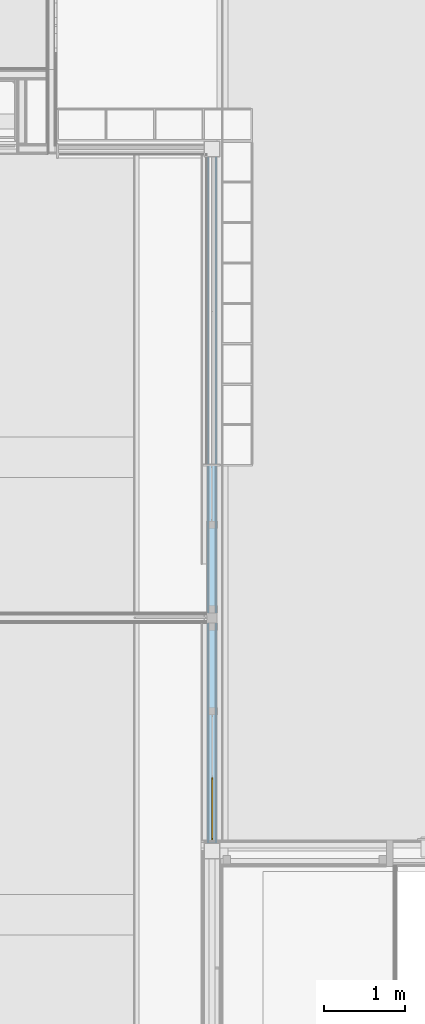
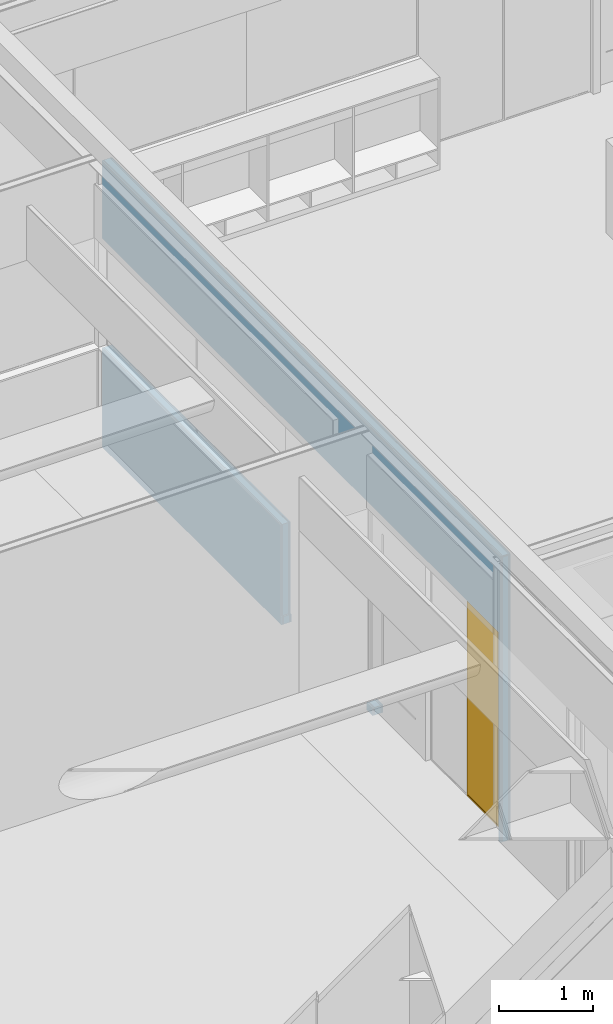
# One storey, part 59 of 137: 1 door, 7 openings, 1 element without a shape of its own, plus 5 elements that do not belong to this part.
"""IFC2X3 building model written with IfcOpenShell, lengths in millimetres."""

from ifc_helpers import new_model, entity, si_unit, converted_unit, derived_unit, money_unit, direction, frame, origin_with_axes, place, context, subcontext, project, spatial, open_shell, faceted_brep, surface_model, material, type_object, element, fill, aggregate, save


model = new_model("IFC2X3")

# Units and contexts
model_context = context("Model", 3, precision=0.01, world=origin_with_axes(), true_north=direction((0.0, 1.0)))
body_context = subcontext(model_context, "Body", "Model", "MODEL_VIEW")
ifc_project = project(units=[si_unit("LENGTHUNIT", "METRE", prefix="MILLI"), si_unit("AREAUNIT", "SQUARE_METRE"), si_unit("VOLUMEUNIT", "CUBIC_METRE"), converted_unit("PLANEANGLEUNIT", "DEGREE", entity("IfcPlaneAngleMeasure", 0.0174532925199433), si_unit("PLANEANGLEUNIT", "RADIAN"), dimensions=[0, 0, 0, 0, 0, 0, 0]), money_unit("EUR"), converted_unit("TIMEUNIT", "Year", entity("IfcTimeMeasure", 31556926.0), si_unit("TIMEUNIT", "SECOND"), dimensions=[0, 0, 1, 0, 0, 0, 0]), si_unit("MASSUNIT", "GRAM", prefix="KILO"), si_unit("THERMODYNAMICTEMPERATUREUNIT", "DEGREE_CELSIUS"), si_unit("LUMINOUSINTENSITYUNIT", "LUMEN"), si_unit("ENERGYUNIT", "JOULE", prefix="MEGA"), derived_unit("THERMALCONDUCTANCEUNIT", [(si_unit("POWERUNIT", "WATT"), 1), (si_unit("LENGTHUNIT", "METRE"), -1), (si_unit("THERMODYNAMICTEMPERATUREUNIT", "KELVIN"), -1)]), derived_unit("SPECIFICHEATCAPACITYUNIT", [(si_unit("ENERGYUNIT", "JOULE"), 1), (si_unit("MASSUNIT", "GRAM", prefix="KILO"), -1), (si_unit("THERMODYNAMICTEMPERATUREUNIT", "KELVIN"), -1)]), derived_unit("MASSDENSITYUNIT", [(si_unit("MASSUNIT", "GRAM", prefix="KILO"), 1), (si_unit("VOLUMEUNIT", "CUBIC_METRE"), -1)])], contexts=[model_context])

# Site, building, storey
site_placement = place(None, origin_with_axes())
site = spatial("IfcSite", under=ifc_project, at=site_placement, Name="Site", CompositionType="ELEMENT")
building_placement = place(site_placement, origin_with_axes())
building = spatial("IfcBuilding", under=site, at=building_placement, Name="Naam gebouw", CompositionType="ELEMENT")
storey_placement = place(building_placement, frame((0.0, 0.0, 3960.0), z_axis=(0.0, 0.0, 1.0), x_axis=(1.0, 0.0, 0.0)))
storey = spatial("IfcBuildingStorey", under=building, at=storey_placement, Name="1e verdieping", CompositionType="ELEMENT", Elevation=3960.0)

# Door
door_style = type_object("IfcDoorStyle", Name="R1 26", ConstructionType="NOTDEFINED", OperationType="SINGLE_SWING_RIGHT", ParameterTakesPrecedence=False, Sizeable=False)
proxy_placement = place(storey_placement, frame((8850.000000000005, 19449.9998112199, -100.0000000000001), z_axis=(0.0, 0.0, 1.0), x_axis=(0.0, -1.0, 0.0)))
opening_1_placement = place(proxy_placement, frame((8119.999775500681, 0.0, 100.0000000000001), z_axis=(0.0, 0.0, 1.0), x_axis=(1.0, 0.0, 0.0)))
door_placement = place(opening_1_placement, frame((-384.999925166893, 0.0, 0.0), z_axis=(0.0, 0.0, 1.0), x_axis=(1.0, 0.0, 0.0)))
door = element("IfcDoor", 1, at=door_placement, inside=storey, type_object=door_style, Name="_B.08", ObjectType="DOOR", OverallHeight=2600.0, OverallWidth=770.0, context=body_context, shape_type="SurfaceModel", body=[
    faceted_brep([(749.9998503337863, -7.500000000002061, 2580.0), (769.999850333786, -7.500000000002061, 2580.0), (769.999850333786, 12.49999999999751, 2580.0), (749.9998503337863, 12.49999999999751, 2580.0), (749.9998503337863, -7.500000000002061, 20.00000000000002), (769.999850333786, -7.500000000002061, 20.00000000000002), (769.999850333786, 12.49999999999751, 20.00000000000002), (749.9998503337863, 12.49999999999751, 20.00000000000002)], [[[0, 1, 2, 3]], [[0, 4, 5, 1]], [[1, 5, 6, 2]], [[3, 2, 6, 7]], [[4, 0, 3, 7]], [[5, 4, 7, 6]]]),
    faceted_brep([(19.99999999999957, -7.500000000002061, 20.00000000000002), (0.0, -7.500000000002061, 20.00000000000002), (0.0, 12.49999999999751, 20.00000000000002), (19.99999999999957, 12.49999999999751, 20.00000000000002), (19.99999999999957, -7.500000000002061, 2580.0), (0.0, -7.500000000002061, 2580.0), (0.0, 12.49999999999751, 2580.0), (19.99999999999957, 12.49999999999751, 2580.0)], [[[0, 1, 2, 3]], [[0, 4, 5, 1]], [[1, 5, 6, 2]], [[3, 2, 6, 7]], [[4, 0, 3, 7]], [[5, 4, 7, 6]]]),
    faceted_brep([(749.9998503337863, -7.500000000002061, 20.00000000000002), (769.999850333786, -7.500000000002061, 20.00000000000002), (769.999850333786, 12.49999999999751, 20.00000000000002), (749.9998503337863, 12.49999999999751, 20.00000000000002), (19.99999999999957, -7.500000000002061, 20.00000000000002), (0.0, -7.500000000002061, 20.00000000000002), (0.0, -7.500000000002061, 0.0), (769.999850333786, -7.500000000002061, 0.0), (769.999850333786, 12.49999999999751, 0.0), (0.0, 12.49999999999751, 0.0), (0.0, 12.49999999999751, 20.00000000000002), (19.99999999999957, 12.49999999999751, 20.00000000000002)], [[[0, 1, 2, 3]], [[0, 4, 5, 6, 7, 1]], [[1, 7, 8, 2]], [[3, 2, 8, 9, 10, 11]], [[4, 0, 3, 11]], [[5, 4, 11, 10]], [[6, 5, 10, 9]], [[7, 6, 9, 8]]]),
    faceted_brep([(19.99999999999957, -7.500000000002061, 2580.0), (0.0, -7.500000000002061, 2580.0), (0.0, 12.49999999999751, 2580.0), (19.99999999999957, 12.49999999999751, 2580.0), (749.9998503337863, -7.500000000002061, 2580.0), (769.999850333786, -7.500000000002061, 2580.0), (769.999850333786, -7.500000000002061, 2600.0), (0.0, -7.500000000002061, 2600.0), (0.0, 12.49999999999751, 2600.0), (769.999850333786, 12.49999999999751, 2600.0), (769.999850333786, 12.49999999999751, 2580.0), (749.9998503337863, 12.49999999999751, 2580.0)], [[[0, 1, 2, 3]], [[0, 4, 5, 6, 7, 1]], [[1, 7, 8, 2]], [[3, 2, 8, 9, 10, 11]], [[4, 0, 3, 11]], [[5, 4, 11, 10]], [[6, 5, 10, 9]], [[7, 6, 9, 8]]]),
    surface_model("IfcShellBasedSurfaceModel", [(749.9998503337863, -2.500000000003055, 20.00000000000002), (749.9998503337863, -2.500000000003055, 2580.0), (19.99999999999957, -2.500000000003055, 2580.0), (19.99999999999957, -2.500000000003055, 20.00000000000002)], [open_shell([[[0, 1, 2, 3]]])]),
    surface_model("IfcShellBasedSurfaceModel", [(749.9998503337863, 7.499999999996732, 20.00000000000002), (19.99999999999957, 7.499999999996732, 20.00000000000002), (19.99999999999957, 7.499999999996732, 2580.0), (749.9998503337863, 7.499999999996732, 2580.0)], [open_shell([[[0, 1, 2, 3]]])]),
])

# Proxy, opening
building_element_proxy_type = type_object("IfcBuildingElementProxyType", Name="22 Metal stud 125 gips 125", PredefinedType="NOTDEFINED")
proxy = element("IfcBuildingElementProxy", 2, at=proxy_placement, inside=storey, type_object=building_element_proxy_type, Name="_Wand-x")
opening_1 = element("IfcOpeningElement", 3, at=opening_1_placement, cuts=proxy, Name="_B.08", context=body_context, shape_type="Brep", body=[
    faceted_brep([(-384.999925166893, 12.49999999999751, -100.0000000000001), (-384.999925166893, 12.49999999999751, 2600.0), (-384.999925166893, 63.49999999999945, 2600.0), (-384.999925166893, 63.49999999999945, -100.0000000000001), (-384.999925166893, -63.49999999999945, -100.0000000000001), (-384.999925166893, -63.49999999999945, 2600.0), (384.999925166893, 12.49999999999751, 2600.0), (384.999925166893, 63.49999999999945, 2600.0), (384.999925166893, -63.49999999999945, 2600.0), (384.999925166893, 63.49999999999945, -100.0000000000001), (384.999925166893, 12.49999999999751, -100.0000000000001), (384.999925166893, -63.49999999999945, -100.0000000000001)], [[[0, 1, 2, 3]], [[1, 0, 4, 5]], [[6, 7, 2, 1, 5, 8]], [[7, 9, 3, 2]], [[0, 3, 9, 10, 11, 4]], [[5, 4, 11, 8]], [[6, 10, 9, 7]], [[10, 6, 8, 11]]]),
])

fill(opening_1, door)

# Opening
opening_2_placement = place(proxy_placement, frame((2950.000000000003, 0.0, 1298.0), z_axis=(0.0, 0.0, 1.0), x_axis=(1.0, 0.0, 0.0)))
element("IfcOpeningElement", 4, at=opening_2_placement, cuts=proxy, Name="_C.02", context=body_context, shape_type="Brep", body=[
    faceted_brep([(-949.9999999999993, 12.49999999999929, 0.0), (-949.9999999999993, 12.49999999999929, 1400.0), (-949.9999999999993, 63.49999999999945, 1400.0), (-949.9999999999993, 63.49999999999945, 0.0), (-949.9999999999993, -63.49999999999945, 0.0), (-949.9999999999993, -63.49999999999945, 1400.0), (950.000000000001, 12.49999999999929, 1400.0), (950.000000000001, 63.49999999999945, 1400.0), (950.000000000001, -63.49999999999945, 1400.0), (950.000000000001, 63.49999999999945, 0.0), (950.000000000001, 12.49999999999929, 0.0), (950.000000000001, -63.49999999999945, 0.0)], [[[0, 1, 2, 3]], [[1, 0, 4, 5]], [[6, 7, 2, 1, 5, 8]], [[7, 9, 3, 2]], [[0, 3, 9, 10, 11, 4]], [[5, 4, 11, 8]], [[6, 10, 9, 7]], [[10, 6, 8, 11]]]),
])

opening_3_placement = place(proxy_placement, frame((4240.000000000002, 0.0, 100.0000000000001), z_axis=(0.0, 0.0, 1.0), x_axis=(1.0, 0.0, 0.0)))
element("IfcOpeningElement", 5, at=opening_3_placement, cuts=proxy, Name="_B.07", context=body_context, shape_type="Brep", body=[
    faceted_brep([(339.9999999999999, -12.49999999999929, -100.0000000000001), (339.9999999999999, -12.49999999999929, 2600.0), (339.9999999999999, -63.49999999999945, 2600.0), (339.9999999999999, -63.49999999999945, -100.0000000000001), (339.9999999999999, 63.49999999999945, -100.0000000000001), (339.9999999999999, 63.49999999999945, 2600.0), (-339.9999999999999, -12.49999999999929, 2600.0), (-339.9999999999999, -63.49999999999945, 2600.0), (-339.9999999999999, 63.49999999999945, 2600.0), (-339.9999999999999, -63.49999999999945, -100.0000000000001), (-339.9999999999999, -12.49999999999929, -100.0000000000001), (-339.9999999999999, 63.49999999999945, -100.0000000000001)], [[[0, 1, 2, 3]], [[1, 0, 4, 5]], [[6, 7, 2, 1, 5, 8]], [[7, 9, 3, 2]], [[0, 3, 9, 10, 11, 4]], [[5, 4, 11, 8]], [[6, 10, 9, 7]], [[10, 6, 8, 11]]]),
])

opening_4_placement = place(proxy_placement, frame((5145.000000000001, 0.0, 100.0000000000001), z_axis=(0.0, 0.0, 1.0), x_axis=(1.0, 0.0, 0.0)))
element("IfcOpeningElement", 6, at=opening_4_placement, cuts=proxy, Name="_02.01", context=body_context, shape_type="Brep", body=[
    faceted_brep([(564.9999999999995, 63.49999999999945, 2600.0), (564.9999999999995, 63.49999999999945, -100.0000000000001), (-564.9999999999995, 63.49999999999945, -100.0000000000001), (-564.9999999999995, 63.49999999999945, 2600.0), (564.9999999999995, -63.49999999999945, 2600.0), (564.9999999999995, -63.49999999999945, -100.0000000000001), (-564.9999999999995, -63.49999999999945, -100.0000000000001), (-564.9999999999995, -63.49999999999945, 2600.0)], [[[0, 1, 2, 3]], [[4, 5, 1, 0]], [[5, 6, 2, 1]], [[6, 7, 3, 2]], [[7, 4, 0, 3]], [[6, 5, 4, 7]]]),
])

opening_5_placement = place(proxy_placement, frame((7349.999925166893, 0.0, 100.0000000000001), z_axis=(0.0, 0.0, 1.0), x_axis=(1.0, 0.0, 0.0)))
element("IfcOpeningElement", 7, at=opening_5_placement, cuts=proxy, Name="_B.08", context=body_context, shape_type="Brep", body=[
    faceted_brep([(-384.999925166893, 12.49999999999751, -100.0000000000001), (-384.999925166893, 12.49999999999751, 2600.0), (-384.999925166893, 63.49999999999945, 2600.0), (-384.999925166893, 63.49999999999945, -100.0000000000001), (-384.999925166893, -63.49999999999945, -100.0000000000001), (-384.999925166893, -63.49999999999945, 2600.0), (384.999925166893, 12.49999999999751, 2600.0), (384.999925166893, 63.49999999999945, 2600.0), (384.999925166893, -63.49999999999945, 2600.0), (384.999925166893, 63.49999999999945, -100.0000000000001), (384.999925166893, 12.49999999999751, -100.0000000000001), (384.999925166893, -63.49999999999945, -100.0000000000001)], [[[0, 1, 2, 3]], [[1, 0, 4, 5]], [[6, 7, 2, 1, 5, 8]], [[7, 9, 3, 2]], [[0, 3, 9, 10, 11, 4]], [[5, 4, 11, 8]], [[6, 10, 9, 7]], [[10, 6, 8, 11]]]),
])

opening_6_placement = place(proxy_placement, frame((6400.0, 0.0, 100.0000000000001), z_axis=(0.0, 0.0, 1.0), x_axis=(1.0, 0.0, 0.0)))
element("IfcOpeningElement", 8, at=opening_6_placement, cuts=proxy, Name="_01.01", context=body_context, shape_type="Brep", body=[
    faceted_brep([(-564.9999999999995, -63.49999999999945, 2600.0), (-564.9999999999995, -63.49999999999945, -100.0000000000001), (564.9999999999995, -63.49999999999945, -100.0000000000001), (564.9999999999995, -63.49999999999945, 2600.0), (-564.9999999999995, 63.49999999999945, 2600.0), (-564.9999999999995, 63.49999999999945, -100.0000000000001), (564.9999999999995, 63.49999999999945, -100.0000000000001), (564.9999999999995, 63.49999999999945, 2600.0)], [[[0, 1, 2, 3]], [[4, 5, 1, 0]], [[5, 6, 2, 1]], [[6, 7, 3, 2]], [[7, 4, 0, 3]], [[6, 5, 4, 7]]]),
])

opening_7_placement = place(proxy_placement, frame((1050.000000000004, 0.0, 1298.0), z_axis=(0.0, 0.0, 1.0), x_axis=(1.0, 0.0, 0.0)))
element("IfcOpeningElement", 9, at=opening_7_placement, cuts=proxy, Name="_C.02", context=body_context, shape_type="Brep", body=[
    faceted_brep([(-949.9999999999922, 12.49999999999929, 0.0), (-949.9999999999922, 12.49999999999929, 1400.0), (-949.9999999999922, 63.49999999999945, 1400.0), (-949.9999999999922, 63.49999999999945, 0.0), (-949.9999999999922, -63.49999999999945, 0.0), (-949.9999999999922, -63.49999999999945, 1400.0), (949.9999999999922, 12.49999999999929, 1400.0), (949.9999999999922, 63.49999999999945, 1400.0), (949.9999999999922, -63.49999999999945, 1400.0), (949.9999999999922, 63.49999999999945, 0.0), (949.9999999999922, 12.49999999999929, 0.0), (949.9999999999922, -63.49999999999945, 0.0)], [[[0, 1, 2, 3]], [[1, 0, 4, 5]], [[6, 7, 2, 1, 5, 8]], [[7, 9, 3, 2]], [[0, 3, 9, 10, 11, 4]], [[5, 4, 11, 8]], [[6, 10, 9, 7]], [[10, 6, 8, 11]]]),
])

# Building element part
ifc_material_1 = material(Name="Gipsplaat")
building_element_part_1_placement = place(proxy_placement, origin_with_axes())
building_element_part_1 = element("IfcBuildingElementPart", 10, at=building_element_part_1_placement, material=ifc_material_1, Name="Gipsplaat", context=body_context, shape_type="Brep", body=[
    faceted_brep([(100.0000000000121, 37.49999999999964, 1280.000000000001), (100.0000000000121, 50.00000000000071, 1280.000000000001), (100.0000000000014, 50.00000000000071, 0.0), (100.0000000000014, 37.49999999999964, 0.0), (3880.004312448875, 50.00000000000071, 1280.000000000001), (3880.004288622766, 37.49999999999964, 1280.000000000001), (3880.004312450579, 50.00000000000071, 100.0000000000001), (3900.004312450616, 49.99999999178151, 100.0000000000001), (3900.000000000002, 50.00000000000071, 0.0), (3900.000000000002, 37.49999999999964, 0.0), (3900.004288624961, 37.49999999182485, 100.0000000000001), (3880.004288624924, 37.49999999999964, 100.0000000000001)], [[[0, 1, 2, 3]], [[4, 1, 0, 5]], [[1, 4, 6, 7, 8, 2]], [[9, 3, 2, 8]], [[5, 0, 3, 9, 10, 11]], [[4, 5, 11, 6]], [[6, 11, 10, 7]], [[10, 9, 8, 7]]]),
    faceted_brep([(8539.999700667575, 49.99999999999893, 0.0), (8504.999700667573, 49.99999999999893, 0.0), (8504.999700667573, 49.99999999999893, 2700.0), (5835.000000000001, 49.99999999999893, 2700.0), (5710.000000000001, 49.99999999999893, 2700.0), (3900.000000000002, 50.00000000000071, 2700.0), (3900.000000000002, 50.00000000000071, 2698.0), (100.0000000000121, 50.00000000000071, 2698.0), (100.0000000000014, 50.00000000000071, 3683.000002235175), (8539.999700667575, 49.99999999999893, 3683.000002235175), (8539.999700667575, 37.49999999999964, 0.0), (8504.999700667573, 37.49999999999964, 0.0), (8504.999700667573, 37.49999999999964, 2700.0), (5835.000000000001, 37.49999999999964, 2700.0), (5710.000000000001, 37.49999999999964, 2700.0), (3900.000000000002, 37.49999999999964, 2700.0), (3900.000000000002, 37.49999999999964, 2698.0), (100.0000000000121, 37.49999999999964, 2698.0), (100.0000000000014, 37.49999999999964, 3683.000002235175), (8539.999700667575, 37.49999999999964, 3683.000002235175)], [[[0, 1, 2, 3, 4, 5, 6, 7, 8, 9]], [[1, 0, 10, 11]], [[1, 11, 12, 2]], [[3, 2, 12, 13]], [[4, 3, 13, 14]], [[14, 15, 5, 4]], [[16, 6, 5, 15]], [[7, 6, 16, 17]], [[7, 17, 18, 8]], [[9, 8, 18, 19]], [[10, 0, 9, 19]], [[17, 16, 15, 14, 13, 12, 11, 10, 19, 18]]]),
    faceted_brep([(5710.000000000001, 37.49999999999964, 100.0000000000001), (5710.000000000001, 49.99999999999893, 100.0000000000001), (5710.000000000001, 49.99999999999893, 0.0), (5710.000000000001, 37.49999999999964, 0.0), (5835.000000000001, 49.99999999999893, 100.0000000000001), (5835.000000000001, 37.49999999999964, 100.0000000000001), (5835.000000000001, 49.99999999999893, 0.0), (5835.000000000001, 37.49999999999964, 0.0)], [[[0, 1, 2, 3]], [[4, 1, 0, 5]], [[1, 4, 6, 2]], [[2, 6, 7, 3]], [[5, 0, 3, 7]], [[4, 5, 7, 6]]]),
    faceted_brep([(100.0000000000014, 50.00000000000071, 3695.000002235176), (100.0000000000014, 50.00000000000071, 3699.999999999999), (8539.999700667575, 49.99999999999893, 3699.999999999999), (8539.999700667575, 49.99999999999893, 3695.000002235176), (100.0000000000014, 37.49999999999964, 3699.999999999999), (100.0000000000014, 37.49999999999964, 3695.000002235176), (8539.999700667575, 37.49999999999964, 3699.999999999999), (8539.999700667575, 37.49999999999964, 3695.000002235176)], [[[0, 1, 2, 3]], [[4, 1, 0, 5]], [[1, 4, 6, 2]], [[3, 2, 6, 7]], [[5, 0, 3, 7]], [[4, 5, 7, 6]]]),
])

building_element_part_2_placement = place(proxy_placement, origin_with_axes())
building_element_part_2 = element("IfcBuildingElementPart", 11, at=building_element_part_2_placement, material=ifc_material_1, Name="Gipsplaat", context=body_context, shape_type="Brep", body=[
    faceted_brep([(100.0000000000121, -50.00000000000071, 1280.000000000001), (100.0000000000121, -37.49999999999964, 1280.000000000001), (100.0000000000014, -37.49999999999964, 0.0), (100.0000000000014, -50.00000000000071, 0.0), (3880.004145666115, -37.49999999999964, 1280.000000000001), (3880.004121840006, -49.99999999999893, 1280.000000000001), (3880.004145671, -37.49999999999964, 100.0000000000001), (3900.004145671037, -37.50000000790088, 100.0000000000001), (3900.000000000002, -37.49999999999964, 0.0), (3900.000000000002, -50.00000000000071, 0.0), (3900.004121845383, -50.00000000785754, 100.0000000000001), (3880.004121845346, -49.99999999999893, 100.0000000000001)], [[[0, 1, 2, 3]], [[4, 1, 0, 5]], [[1, 4, 6, 7, 8, 2]], [[9, 3, 2, 8]], [[5, 0, 3, 9, 10, 11]], [[4, 5, 11, 6]], [[6, 11, 10, 7]], [[10, 9, 8, 7]]]),
    faceted_brep([(8539.999700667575, -37.50000000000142, 0.0), (8504.999700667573, -37.50000000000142, 0.0), (8504.999700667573, -37.50000000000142, 2700.0), (5835.000000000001, -37.50000000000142, 2700.0), (5710.000000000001, -37.50000000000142, 2700.0), (3900.000000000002, -37.49999999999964, 2700.0), (3900.000000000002, -37.49999999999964, 2698.0), (100.0000000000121, -37.49999999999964, 2698.0), (100.0000000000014, -37.49999999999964, 3683.000002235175), (8539.999700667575, -37.50000000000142, 3683.000002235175), (8539.999700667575, -50.00000000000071, 0.0), (8504.999700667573, -50.00000000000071, 0.0), (8504.999700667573, -50.00000000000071, 2700.0), (5835.000000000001, -49.99999999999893, 2700.0), (5710.000000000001, -49.99999999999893, 2700.0), (3900.000000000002, -49.99999999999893, 2700.0), (3900.000000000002, -49.99999999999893, 2698.0), (100.0000000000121, -49.99999999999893, 2698.0), (100.0000000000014, -49.99999999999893, 3683.000002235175), (8539.999700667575, -50.00000000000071, 3683.000002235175)], [[[0, 1, 2, 3, 4, 5, 6, 7, 8, 9]], [[1, 0, 10, 11]], [[1, 11, 12, 2]], [[3, 2, 12, 13]], [[4, 3, 13, 14]], [[14, 15, 5, 4]], [[16, 6, 5, 15]], [[7, 6, 16, 17]], [[7, 17, 18, 8]], [[9, 8, 18, 19]], [[10, 0, 9, 19]], [[17, 16, 15, 14, 13, 12, 11, 10, 19, 18]]]),
    faceted_brep([(5710.000000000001, -50.00000000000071, 100.0000000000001), (5710.000000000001, -37.50000000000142, 100.0000000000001), (5710.000000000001, -37.50000000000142, 0.0), (5710.000000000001, -50.00000000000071, 0.0), (5835.000000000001, -37.50000000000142, 100.0000000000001), (5835.000000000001, -50.00000000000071, 100.0000000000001), (5835.000000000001, -37.50000000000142, 0.0), (5835.000000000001, -50.00000000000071, 0.0)], [[[0, 1, 2, 3]], [[4, 1, 0, 5]], [[1, 4, 6, 2]], [[2, 6, 7, 3]], [[5, 0, 3, 7]], [[4, 5, 7, 6]]]),
    faceted_brep([(100.0000000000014, -37.49999999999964, 3695.000002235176), (100.0000000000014, -37.49999999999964, 3699.999999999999), (8539.999700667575, -37.50000000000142, 3699.999999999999), (8539.999700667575, -37.50000000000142, 3695.000002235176), (100.0000000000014, -49.99999999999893, 3699.999999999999), (100.0000000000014, -49.99999999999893, 3695.000002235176), (8539.999700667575, -50.00000000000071, 3699.999999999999), (8539.999700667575, -50.00000000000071, 3695.000002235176)], [[[0, 1, 2, 3]], [[4, 1, 0, 5]], [[1, 4, 6, 2]], [[3, 2, 6, 7]], [[5, 0, 3, 7]], [[4, 5, 7, 6]]]),
])

building_element_part_3_placement = place(proxy_placement, origin_with_axes())
building_element_part_3 = element("IfcBuildingElementPart", 12, at=building_element_part_3_placement, material=ifc_material_1, Name="Gipsplaat", context=body_context, shape_type="Brep", body=[
    faceted_brep([(100.0000000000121, -62.5, 1280.000000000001), (100.0000000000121, -50.00000000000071, 1280.000000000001), (100.0000000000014, -50.00000000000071, 0.0), (100.0000000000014, -62.5, 0.0), (3880.004121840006, -50.00000000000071, 1280.000000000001), (3880.004098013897, -62.5, 1280.000000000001), (3880.004121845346, -50.00000000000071, 100.0000000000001), (3900.004121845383, -50.00000000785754, 100.0000000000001), (3900.000000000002, -50.00000000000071, 0.0), (3900.000000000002, -62.5, 0.0), (3900.004098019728, -62.50000000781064, 100.0000000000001), (3880.004098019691, -62.5, 100.0000000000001)], [[[0, 1, 2, 3]], [[4, 1, 0, 5]], [[1, 4, 6, 7, 8, 2]], [[9, 3, 2, 8]], [[5, 0, 3, 9, 10, 11]], [[4, 5, 11, 6]], [[6, 11, 10, 7]], [[10, 9, 8, 7]]]),
    faceted_brep([(8539.999700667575, -50.00000000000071, 0.0), (8504.999700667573, -50.00000000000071, 0.0), (8504.999700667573, -50.00000000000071, 2700.0), (5835.000000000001, -50.00000000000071, 2700.0), (5710.000000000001, -50.00000000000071, 2700.0), (3900.000000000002, -50.00000000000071, 2700.0), (3900.000000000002, -50.00000000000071, 2698.0), (100.0000000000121, -49.99999999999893, 2698.0), (100.0000000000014, -49.99999999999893, 3683.000002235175), (8539.999700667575, -50.00000000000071, 3683.000002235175), (8539.999700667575, -62.50000000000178, 0.0), (8504.999700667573, -62.50000000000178, 0.0), (8504.999700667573, -62.5, 2700.0), (5835.000000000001, -62.5, 2700.0), (5710.000000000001, -62.5, 2700.0), (3900.000000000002, -62.5, 2700.0), (3900.000000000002, -62.5, 2698.0), (100.0000000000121, -62.5, 2698.0), (100.0000000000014, -62.5, 3683.000002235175), (8539.999700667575, -62.5, 3683.000002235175)], [[[0, 1, 2, 3, 4, 5, 6, 7, 8, 9]], [[1, 0, 10, 11]], [[1, 11, 12, 2]], [[3, 2, 12, 13]], [[4, 3, 13, 14]], [[14, 15, 5, 4]], [[16, 6, 5, 15]], [[7, 6, 16, 17]], [[7, 17, 18, 8]], [[9, 8, 18, 19]], [[10, 0, 9, 19]], [[17, 16, 15, 14, 13, 12, 11, 10, 19, 18]]]),
    faceted_brep([(5710.000000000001, -62.5, 100.0000000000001), (5710.000000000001, -50.00000000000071, 100.0000000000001), (5710.000000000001, -50.00000000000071, 0.0), (5710.000000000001, -62.50000000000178, 0.0), (5835.000000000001, -50.00000000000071, 100.0000000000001), (5835.000000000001, -62.5, 100.0000000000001), (5835.000000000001, -50.00000000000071, 0.0), (5835.000000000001, -62.50000000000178, 0.0)], [[[0, 1, 2, 3]], [[4, 1, 0, 5]], [[1, 4, 6, 2]], [[2, 6, 7, 3]], [[5, 0, 3, 7]], [[4, 5, 7, 6]]]),
    faceted_brep([(100.0000000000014, -49.99999999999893, 3695.000002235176), (100.0000000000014, -49.99999999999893, 3699.999999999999), (8539.999700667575, -50.00000000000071, 3699.999999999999), (8539.999700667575, -50.00000000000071, 3695.000002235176), (100.0000000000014, -62.5, 3699.999999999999), (100.0000000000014, -62.5, 3695.000002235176), (8539.999700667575, -62.5, 3699.999999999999), (8539.999700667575, -62.5, 3695.000002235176)], [[[0, 1, 2, 3]], [[4, 1, 0, 5]], [[1, 4, 6, 2]], [[3, 2, 6, 7]], [[5, 0, 3, 7]], [[4, 5, 7, 6]]]),
])

ifc_material_2 = material(Name="ALG - LICHTE SCHEIDINGSWAND")
building_element_part_4_placement = place(proxy_placement, origin_with_axes())
building_element_part_4 = element("IfcBuildingElementPart", 13, at=building_element_part_4_placement, material=ifc_material_2, Name="ALG - LICHTE SCHEIDINGSWAND", context=body_context, shape_type="Brep", body=[
    faceted_brep([(100.0000000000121, -37.49999999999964, 1280.000000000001), (100.0000000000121, 37.49999999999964, 1280.000000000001), (100.0000000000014, 37.49999999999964, 0.0), (100.0000000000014, -37.49999999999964, 0.0), (3880.004288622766, 37.49999999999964, 1280.000000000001), (3880.004145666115, -37.49999999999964, 1280.000000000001), (3880.004288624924, 37.49999999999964, 100.0000000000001), (3900.004288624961, 37.49999999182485, 100.0000000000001), (3900.000000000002, 37.49999999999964, 0.0), (3900.000000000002, -37.49999999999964, 0.0), (3900.004145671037, -37.50000000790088, 100.0000000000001), (3880.004145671, -37.49999999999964, 100.0000000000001)], [[[0, 1, 2, 3]], [[4, 1, 0, 5]], [[1, 4, 6, 7, 8, 2]], [[2, 8, 9, 3]], [[5, 0, 3, 9, 10, 11]], [[4, 5, 11, 6]], [[6, 11, 10, 7]], [[10, 9, 8, 7]]]),
    faceted_brep([(8539.999700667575, 37.49999999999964, 0.0), (8504.999700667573, 37.49999999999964, 0.0), (8504.999700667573, 37.49999999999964, 2700.0), (5835.000000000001, 37.49999999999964, 2700.0), (5710.000000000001, 37.49999999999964, 2700.0), (3900.000000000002, 37.49999999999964, 2700.0), (3900.000000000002, 37.49999999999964, 2698.0), (100.0000000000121, 37.49999999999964, 2698.0), (100.0000000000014, 37.49999999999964, 3683.000002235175), (8539.999700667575, 37.49999999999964, 3683.000002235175), (8504.999700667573, -37.50000000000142, 0.0), (8539.999700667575, -37.50000000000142, 0.0), (8504.999700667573, -37.50000000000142, 2700.0), (5835.000000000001, -37.50000000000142, 2700.0), (5710.000000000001, -37.50000000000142, 2700.0), (3900.000000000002, -37.49999999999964, 2700.0), (3900.000000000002, -37.49999999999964, 2698.0), (100.0000000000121, -37.49999999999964, 2698.0), (100.0000000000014, -37.49999999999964, 3683.000002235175), (8539.999700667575, -37.50000000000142, 3683.000002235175)], [[[0, 1, 2, 3, 4, 5, 6, 7, 8, 9]], [[10, 1, 0, 11]], [[10, 12, 2, 1]], [[3, 2, 12, 13]], [[4, 3, 13, 14]], [[14, 15, 5, 4]], [[6, 5, 15, 16]], [[6, 16, 17, 7]], [[8, 7, 17, 18]], [[8, 18, 19, 9]], [[0, 9, 19, 11]], [[17, 16, 15, 14, 13, 12, 10, 11, 19, 18]]]),
    faceted_brep([(5710.000000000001, -37.50000000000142, 100.0000000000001), (5710.000000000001, 37.49999999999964, 100.0000000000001), (5710.000000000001, 37.49999999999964, 0.0), (5710.000000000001, -37.50000000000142, 0.0), (5835.000000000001, 37.49999999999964, 100.0000000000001), (5835.000000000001, -37.50000000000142, 100.0000000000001), (5835.000000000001, 37.49999999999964, 0.0), (5835.000000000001, -37.50000000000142, 0.0)], [[[0, 1, 2, 3]], [[4, 1, 0, 5]], [[1, 4, 6, 2]], [[2, 6, 7, 3]], [[5, 0, 3, 7]], [[4, 5, 7, 6]]]),
    faceted_brep([(100.0000000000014, 37.49999999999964, 3695.000002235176), (100.0000000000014, 37.49999999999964, 3699.999999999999), (8539.999700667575, 37.49999999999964, 3699.999999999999), (8539.999700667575, 37.49999999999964, 3695.000002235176), (100.0000000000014, -37.49999999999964, 3699.999999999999), (100.0000000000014, -37.49999999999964, 3695.000002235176), (8539.999700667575, -37.50000000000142, 3699.999999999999), (8539.999700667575, -37.50000000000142, 3695.000002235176)], [[[0, 1, 2, 3]], [[4, 1, 0, 5]], [[1, 4, 6, 2]], [[3, 2, 6, 7]], [[5, 0, 3, 7]], [[4, 5, 7, 6]]]),
])

building_element_part_5_placement = place(proxy_placement, origin_with_axes())
building_element_part_5 = element("IfcBuildingElementPart", 14, at=building_element_part_5_placement, material=ifc_material_1, Name="Gipsplaat", context=body_context, shape_type="Brep", body=[
    faceted_brep([(100.0000000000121, 50.00000000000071, 1280.000000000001), (100.0000000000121, 62.5, 1280.000000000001), (100.0000000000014, 62.5, 0.0), (100.0000000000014, 50.00000000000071, 0.0), (3880.004336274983, 62.5, 1280.000000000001), (3880.004312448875, 50.00000000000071, 1280.000000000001), (3880.004336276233, 62.5, 100.0000000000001), (3900.00433627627, 62.49999999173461, 100.0000000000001), (3900.000000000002, 62.5, 0.0), (3900.000000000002, 50.00000000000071, 0.0), (3900.004312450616, 49.99999999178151, 100.0000000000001), (3880.004312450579, 50.00000000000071, 100.0000000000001)], [[[0, 1, 2, 3]], [[4, 1, 0, 5]], [[1, 4, 6, 7, 8, 2]], [[9, 3, 2, 8]], [[5, 0, 3, 9, 10, 11]], [[4, 5, 11, 6]], [[6, 11, 10, 7]], [[10, 9, 8, 7]]]),
    faceted_brep([(8539.999700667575, 62.49999999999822, 0.0), (8504.999700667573, 62.49999999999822, 0.0), (8504.999700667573, 62.49999999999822, 2700.0), (5835.000000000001, 62.5, 2700.0), (5710.000000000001, 62.5, 2700.0), (3900.000000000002, 62.5, 2700.0), (3900.000000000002, 62.5, 2698.0), (100.0000000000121, 62.5, 2698.0), (100.0000000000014, 62.5, 3683.000002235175), (8539.999700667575, 62.5, 3683.000002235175), (8539.999700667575, 49.99999999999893, 0.0), (8504.999700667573, 49.99999999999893, 0.0), (8504.999700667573, 50.00000000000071, 2700.0), (5835.000000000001, 50.00000000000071, 2700.0), (5710.000000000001, 50.00000000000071, 2700.0), (3900.000000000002, 50.00000000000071, 2700.0), (3900.000000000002, 50.00000000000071, 2698.0), (100.0000000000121, 50.00000000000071, 2698.0), (100.0000000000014, 50.00000000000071, 3683.000002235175), (8539.999700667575, 49.99999999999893, 3683.000002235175)], [[[0, 1, 2, 3, 4, 5, 6, 7, 8, 9]], [[1, 0, 10, 11]], [[1, 11, 12, 2]], [[3, 2, 12, 13]], [[4, 3, 13, 14]], [[14, 15, 5, 4]], [[16, 6, 5, 15]], [[7, 6, 16, 17]], [[7, 17, 18, 8]], [[9, 8, 18, 19]], [[10, 0, 9, 19]], [[17, 16, 15, 14, 13, 12, 11, 10, 19, 18]]]),
    faceted_brep([(5710.000000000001, 49.99999999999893, 100.0000000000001), (5710.000000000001, 62.5, 100.0000000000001), (5710.000000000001, 62.49999999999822, 0.0), (5710.000000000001, 49.99999999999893, 0.0), (5835.000000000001, 62.5, 100.0000000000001), (5835.000000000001, 49.99999999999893, 100.0000000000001), (5835.000000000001, 62.49999999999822, 0.0), (5835.000000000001, 49.99999999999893, 0.0)], [[[0, 1, 2, 3]], [[4, 1, 0, 5]], [[1, 4, 6, 2]], [[2, 6, 7, 3]], [[5, 0, 3, 7]], [[4, 5, 7, 6]]]),
    faceted_brep([(100.0000000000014, 62.5, 3695.000002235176), (100.0000000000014, 62.5, 3699.999999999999), (8539.999700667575, 62.5, 3699.999999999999), (8539.999700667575, 62.5, 3695.000002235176), (100.0000000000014, 50.00000000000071, 3699.999999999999), (100.0000000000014, 50.00000000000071, 3695.000002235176), (8539.999700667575, 49.99999999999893, 3699.999999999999), (8539.999700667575, 49.99999999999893, 3695.000002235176)], [[[0, 1, 2, 3]], [[4, 1, 0, 5]], [[1, 4, 6, 2]], [[3, 2, 6, 7]], [[5, 0, 3, 7]], [[4, 5, 7, 6]]]),
])

aggregate(proxy, [building_element_part_1, building_element_part_2, building_element_part_3, building_element_part_4, building_element_part_5])

save(model, "model.ifc")
